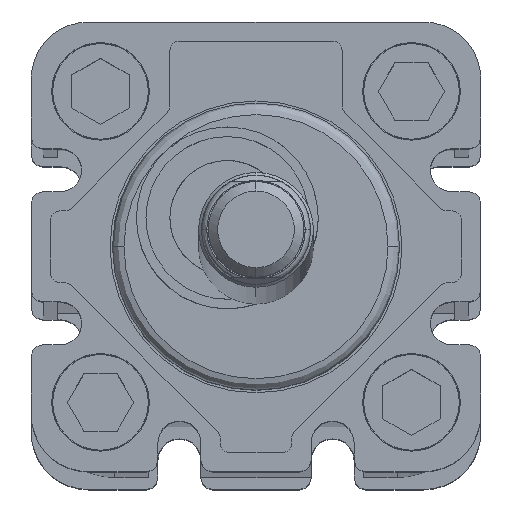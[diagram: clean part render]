
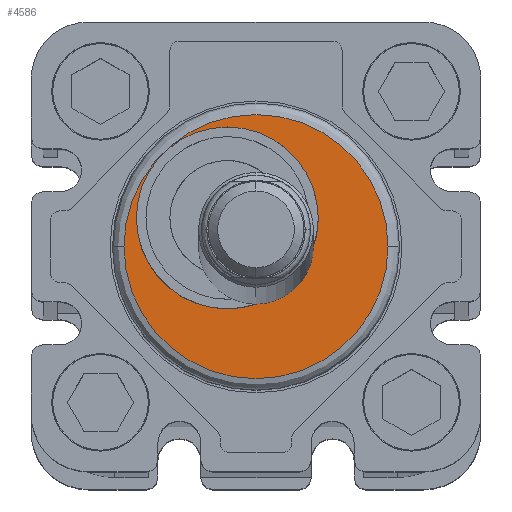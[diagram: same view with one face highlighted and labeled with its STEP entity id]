
A CAD part, top view. The second image highlights one B-rep face of the part: STEP entity #4586.
In plain terms, the highlighted planar face has unit normal (0, 0, 1).
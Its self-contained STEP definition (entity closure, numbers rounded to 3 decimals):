
#1450=CARTESIAN_POINT('',(7.45,-21.25,1084.0));
#1451=VERTEX_POINT('',#1450);
#1459=CARTESIAN_POINT('',(35.05,-21.25,1084.0));
#1460=VERTEX_POINT('',#1459);
#1461=CARTESIAN_POINT('',(21.25,-21.25,1084.0));
#1462=DIRECTION('',(0.0,0.0,-1.0));
#1463=DIRECTION('',(-1.0,0.0,0.0));
#1464=AXIS2_PLACEMENT_3D('',#1461,#1462,#1463);
#1465=CIRCLE('',#1464,13.8);
#1466=EDGE_CURVE('',#1451,#1460,#1465,.T.);
#2263=CARTESIAN_POINT('',(21.292,-27.25,1084.0));
#2264=VERTEX_POINT('',#2263);
#2272=CARTESIAN_POINT('',(27.25,-21.292,1084.0));
#2273=VERTEX_POINT('',#2272);
#2274=CARTESIAN_POINT('',(21.25,-21.25,1084.0));
#2275=DIRECTION('',(0.0,0.0,-1.0));
#2276=DIRECTION('',(0.0,1.0,0.0));
#2277=AXIS2_PLACEMENT_3D('',#2274,#2275,#2276);
#2278=CIRCLE('',#2277,6.);
#2279=EDGE_CURVE('',#2273,#2264,#2278,.T.);
#4327=CARTESIAN_POINT('',(27.75,-18.25,1084.0));
#4328=VERTEX_POINT('',#4327);
#4344=CARTESIAN_POINT('',(8.75,-18.25,1084.0));
#4345=VERTEX_POINT('',#4344);
#4352=CARTESIAN_POINT('',(18.25,-18.25,1084.0));
#4353=DIRECTION('',(0.0,0.0,-1.0));
#4354=DIRECTION('',(1.0,0.0,0.0));
#4355=AXIS2_PLACEMENT_3D('',#4352,#4353,#4354);
#4356=CIRCLE('',#4355,9.5);
#4357=EDGE_CURVE('',#2264,#4345,#4356,.T.);
#4366=CARTESIAN_POINT('',(18.25,-18.25,1084.0));
#4367=DIRECTION('',(0.0,0.0,-1.0));
#4368=DIRECTION('',(1.0,0.0,0.0));
#4369=AXIS2_PLACEMENT_3D('',#4366,#4367,#4368);
#4370=CIRCLE('',#4369,9.5);
#4371=EDGE_CURVE('',#4328,#2273,#4370,.T.);
#4468=CARTESIAN_POINT('',(18.25,-18.25,1084.0));
#4469=DIRECTION('',(0.0,0.0,-1.0));
#4470=DIRECTION('',(1.0,0.0,0.0));
#4471=AXIS2_PLACEMENT_3D('',#4468,#4469,#4470);
#4472=CIRCLE('',#4471,9.5);
#4473=EDGE_CURVE('',#4345,#4328,#4472,.T.);
#4565=CARTESIAN_POINT('',(21.25,-21.25,1084.0));
#4566=DIRECTION('',(0.0,0.0,1.0));
#4567=DIRECTION('',(1.0,0.0,0.0));
#4568=AXIS2_PLACEMENT_3D('',#4565,#4566,#4567);
#4569=PLANE('',#4568);
#4570=CARTESIAN_POINT('',(21.25,-21.25,1084.0));
#4571=DIRECTION('',(0.0,0.0,-1.0));
#4572=DIRECTION('',(-1.0,0.0,0.0));
#4573=AXIS2_PLACEMENT_3D('',#4570,#4571,#4572);
#4574=CIRCLE('',#4573,13.8);
#4575=EDGE_CURVE('',#1460,#1451,#4574,.T.);
#4576=ORIENTED_EDGE('',*,*,#4575,.F.);
#4577=ORIENTED_EDGE('',*,*,#1466,.F.);
#4578=EDGE_LOOP('',(#4576,#4577));
#4579=FACE_OUTER_BOUND('',#4578,.T.);
#4580=ORIENTED_EDGE('',*,*,#4357,.T.);
#4581=ORIENTED_EDGE('',*,*,#4473,.T.);
#4582=ORIENTED_EDGE('',*,*,#4371,.T.);
#4583=ORIENTED_EDGE('',*,*,#2279,.T.);
#4584=EDGE_LOOP('',(#4580,#4581,#4582,#4583));
#4585=FACE_BOUND('',#4584,.T.);
#4586=ADVANCED_FACE('',(#4579,#4585),#4569,.T.);
